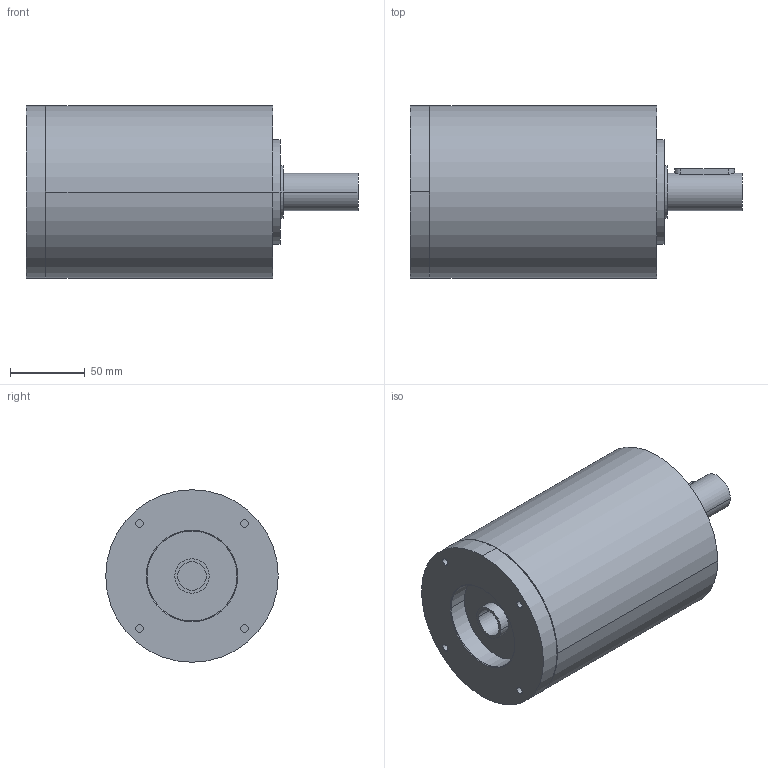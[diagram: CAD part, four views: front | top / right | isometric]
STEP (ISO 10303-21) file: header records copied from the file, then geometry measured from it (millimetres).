
FILE_DESCRIPTION(('CoCreate Modeling STEP Export'),'2;1');
FILE_NAME('GPR125_ig-9-12-16-20-28-35_25_B14_19_P20.stp','2014-08-26T14:10:49',(''),(''),'CoCreate Modeling STEP processor for AP214 (Solid Model)','CoCreate Modeling 16.00C 25-Feb-2009 (C) Parametric Technology GmbH','');
FILE_SCHEMA(('AUTOMOTIVE_DESIGN { 1 0 10303 214 1 1 1 1 }'));
Length unit declared in the file: millimetre
Products named in the file (2): GPR125_ig-9-12-16-20-28-35_25_B14_19_P20
Assembly tree (1 placements, depth 2):
  GPR125_ig-9-12-16-20-28-35_25_B14_19_P20
    GPR125_ig-9-12-16-20-28-35_25_B14_19_P20
Bounding box: 221.4 x 115 x 115 mm (x, y, z)
Volume: 1703723.2 mm3; surface area: 94451.9 mm2
Topology: 1 solids, 1 shells, 62 faces, 159 edges, 113 vertices
Faces by surface type: cylinder 36, plane 20, cone 6
Entity records: 1615 total; most frequent: ORIENTED_EDGE 314, CARTESIAN_POINT 308, DIRECTION 206, EDGE_CURVE 157, VERTEX_POINT 113, AXIS2_PLACEMENT_3D 79, EDGE_LOOP 78, FACE_OUTER_BOUND 62
